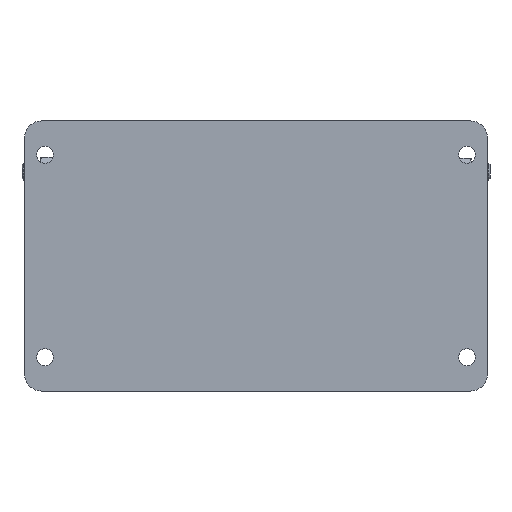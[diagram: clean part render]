
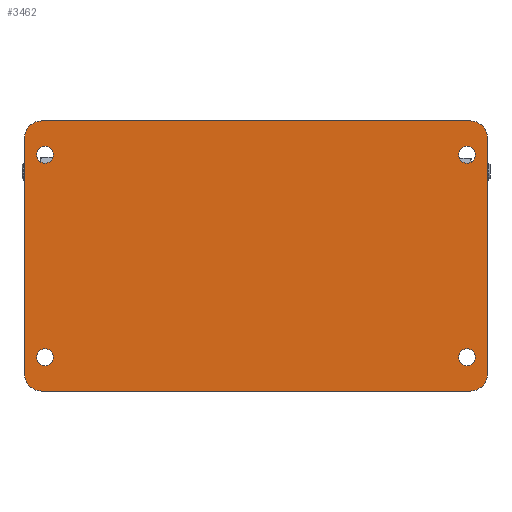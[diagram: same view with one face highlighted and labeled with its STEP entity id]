
A CAD part, front view. The second image highlights one B-rep face of the part: STEP entity #3462.
In plain terms, the highlighted planar face has unit normal (0, -1, 0).
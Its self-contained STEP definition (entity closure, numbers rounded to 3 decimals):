
#13 = CIRCLE ( 'NONE', #3231, 2.5 ) ;
#17 = DIRECTION ( 'NONE',  ( 0., -1., 0. ) ) ;
#18 = AXIS2_PLACEMENT_3D ( 'NONE', #3286, #7959, #5339 ) ;
#19 = VERTEX_POINT ( 'NONE', #4262 ) ;
#40 = AXIS2_PLACEMENT_3D ( 'NONE', #4133, #6205, #8195 ) ;
#176 = LINE ( 'NONE', #8035, #6435 ) ;
#331 = CIRCLE ( 'NONE', #6875, 2.5 ) ;
#358 = ORIENTED_EDGE ( 'NONE', *, *, #3437, .F. ) ;
#458 = CIRCLE ( 'NONE', #4315, 5. ) ;
#571 = CARTESIAN_POINT ( 'NONE',  ( 6., 0., -72.5 ) ) ;
#700 = DIRECTION ( 'NONE',  ( -1., 0., 0. ) ) ;
#797 = CARTESIAN_POINT ( 'NONE',  ( 131., 0., -70. ) ) ;
#925 = DIRECTION ( 'NONE',  ( 0., -1., 0. ) ) ;
#975 = DIRECTION ( 'NONE',  ( 0., 0., -1. ) ) ;
#1022 = CARTESIAN_POINT ( 'NONE',  ( 132., 0., -75. ) ) ;
#1027 = CARTESIAN_POINT ( 'NONE',  ( 6., 0., -70. ) ) ;
#1033 = CARTESIAN_POINT ( 'NONE',  ( 137., 0., 0. ) ) ;
#1134 = CARTESIAN_POINT ( 'NONE',  ( 131., 0., -70. ) ) ;
#1136 = ORIENTED_EDGE ( 'NONE', *, *, #6091, .T. ) ;
#1187 = VECTOR ( 'NONE', #1579, 1000. ) ;
#1268 = VERTEX_POINT ( 'NONE', #8431 ) ;
#1293 = CARTESIAN_POINT ( 'NONE',  ( 5., 0., 0. ) ) ;
#1394 = EDGE_CURVE ( 'NONE', #7535, #8065, #1648, .T. ) ;
#1428 = ORIENTED_EDGE ( 'NONE', *, *, #5624, .F. ) ;
#1460 = CARTESIAN_POINT ( 'NONE',  ( 5., 0., -80. ) ) ;
#1534 = EDGE_CURVE ( 'NONE', #19, #1268, #13, .T. ) ;
#1539 = ORIENTED_EDGE ( 'NONE', *, *, #2008, .F. ) ;
#1579 = DIRECTION ( 'NONE',  ( 1., 0., 0. ) ) ;
#1595 = DIRECTION ( 'NONE',  ( 0., -1., 0. ) ) ;
#1609 = ORIENTED_EDGE ( 'NONE', *, *, #3909, .T. ) ;
#1617 = FACE_BOUND ( 'NONE', #4436, .T. ) ;
#1648 = CIRCLE ( 'NONE', #18, 5. ) ;
#1681 = EDGE_CURVE ( 'NONE', #1835, #5032, #5739, .T. ) ;
#1686 = DIRECTION ( 'NONE',  ( 0., 0., -1. ) ) ;
#1715 = DIRECTION ( 'NONE',  ( 0., -1., 0. ) ) ;
#1817 = CARTESIAN_POINT ( 'NONE',  ( 132., 0., -80. ) ) ;
#1835 = VERTEX_POINT ( 'NONE', #4511 ) ;
#1874 = EDGE_CURVE ( 'NONE', #4021, #8090, #3103, .T. ) ;
#1926 = CIRCLE ( 'NONE', #40, 2.5 ) ;
#1954 = CARTESIAN_POINT ( 'NONE',  ( 6., 0., -10. ) ) ;
#2008 = EDGE_CURVE ( 'NONE', #1835, #2277, #6665, .T. ) ;
#2015 = ORIENTED_EDGE ( 'NONE', *, *, #7504, .F. ) ;
#2267 = CARTESIAN_POINT ( 'NONE',  ( 0., 0., 0. ) ) ;
#2277 = VERTEX_POINT ( 'NONE', #6431 ) ;
#2370 = DIRECTION ( 'NONE',  ( 0., 0., 1. ) ) ;
#2398 = VERTEX_POINT ( 'NONE', #7995 ) ;
#2411 = ORIENTED_EDGE ( 'NONE', *, *, #4466, .F. ) ;
#2422 = DIRECTION ( 'NONE',  ( 0., 0., 1. ) ) ;
#2432 = AXIS2_PLACEMENT_3D ( 'NONE', #797, #1595, #4361 ) ;
#2437 = CIRCLE ( 'NONE', #5455, 2.5 ) ;
#2646 = DIRECTION ( 'NONE',  ( 0., -1., 0. ) ) ;
#2663 = ORIENTED_EDGE ( 'NONE', *, *, #1874, .F. ) ;
#2804 = ORIENTED_EDGE ( 'NONE', *, *, #6576, .F. ) ;
#2823 = CARTESIAN_POINT ( 'NONE',  ( 6., 0., -67.5 ) ) ;
#2951 = ORIENTED_EDGE ( 'NONE', *, *, #4556, .F. ) ;
#3065 = VERTEX_POINT ( 'NONE', #1817 ) ;
#3075 = CIRCLE ( 'NONE', #3864, 2.5 ) ;
#3102 = DIRECTION ( 'NONE',  ( 0., 0., -1. ) ) ;
#3103 = CIRCLE ( 'NONE', #8036, 2.5 ) ;
#3231 = AXIS2_PLACEMENT_3D ( 'NONE', #4468, #5142, #7179 ) ;
#3286 = CARTESIAN_POINT ( 'NONE',  ( 132., 0., -5. ) ) ;
#3437 = EDGE_CURVE ( 'NONE', #3495, #6892, #3800, .T. ) ;
#3462 = ADVANCED_FACE ( 'NONE', ( #1617, #6023, #7990, #4215, #5811 ), #7066, .T. ) ;
#3495 = VERTEX_POINT ( 'NONE', #571 ) ;
#3635 = CARTESIAN_POINT ( 'NONE',  ( 137., 0., -5. ) ) ;
#3800 = CIRCLE ( 'NONE', #5093, 2.5 ) ;
#3864 = AXIS2_PLACEMENT_3D ( 'NONE', #1954, #6087, #6640 ) ;
#3898 = EDGE_LOOP ( 'NONE', ( #2015, #1136, #1539, #7650, #8043, #1609, #2804, #6063 ) ) ;
#3909 = EDGE_CURVE ( 'NONE', #3065, #6584, #6995, .T. ) ;
#4007 = EDGE_CURVE ( 'NONE', #2398, #7303, #331, .T. ) ;
#4021 = VERTEX_POINT ( 'NONE', #5873 ) ;
#4063 = CIRCLE ( 'NONE', #2432, 2.5 ) ;
#4133 = CARTESIAN_POINT ( 'NONE',  ( 6., 0., -70. ) ) ;
#4215 = FACE_BOUND ( 'NONE', #7383, .T. ) ;
#4262 = CARTESIAN_POINT ( 'NONE',  ( 6., 0., -12.5 ) ) ;
#4265 = EDGE_CURVE ( 'NONE', #3065, #5032, #176, .T. ) ;
#4293 = DIRECTION ( 'NONE',  ( 0., 0., 1. ) ) ;
#4306 = CARTESIAN_POINT ( 'NONE',  ( 131., 0., -12.5 ) ) ;
#4315 = AXIS2_PLACEMENT_3D ( 'NONE', #5296, #2646, #6009 ) ;
#4361 = DIRECTION ( 'NONE',  ( 0., 0., -1. ) ) ;
#4436 = EDGE_LOOP ( 'NONE', ( #1428, #2663 ) ) ;
#4466 = EDGE_CURVE ( 'NONE', #1268, #19, #3075, .T. ) ;
#4468 = CARTESIAN_POINT ( 'NONE',  ( 6., 0., -10. ) ) ;
#4481 = DIRECTION ( 'NONE',  ( 0., -1., 0. ) ) ;
#4511 = CARTESIAN_POINT ( 'NONE',  ( 0., 0., -75. ) ) ;
#4556 = EDGE_CURVE ( 'NONE', #6892, #3495, #1926, .T. ) ;
#4584 = CARTESIAN_POINT ( 'NONE',  ( 0., 0., -80. ) ) ;
#4750 = ORIENTED_EDGE ( 'NONE', *, *, #1534, .F. ) ;
#4785 = EDGE_LOOP ( 'NONE', ( #7903, #7806 ) ) ;
#4869 = VECTOR ( 'NONE', #2370, 1000. ) ;
#5032 = VERTEX_POINT ( 'NONE', #1460 ) ;
#5093 = AXIS2_PLACEMENT_3D ( 'NONE', #1027, #5162, #2422 ) ;
#5142 = DIRECTION ( 'NONE',  ( 0., -1., 0. ) ) ;
#5144 = LINE ( 'NONE', #1033, #7429 ) ;
#5162 = DIRECTION ( 'NONE',  ( 0., -1., 0. ) ) ;
#5296 = CARTESIAN_POINT ( 'NONE',  ( 5., 0., -5. ) ) ;
#5339 = DIRECTION ( 'NONE',  ( 0., 0., -1. ) ) ;
#5393 = DIRECTION ( 'NONE',  ( 0., 0., 1. ) ) ;
#5425 = CARTESIAN_POINT ( 'NONE',  ( 131., 0., -10. ) ) ;
#5455 = AXIS2_PLACEMENT_3D ( 'NONE', #5425, #17, #5393 ) ;
#5624 = EDGE_CURVE ( 'NONE', #8090, #4021, #2437, .T. ) ;
#5739 = CIRCLE ( 'NONE', #6100, 5. ) ;
#5787 = CARTESIAN_POINT ( 'NONE',  ( 5., 0., -75. ) ) ;
#5811 = FACE_OUTER_BOUND ( 'NONE', #3898, .T. ) ;
#5813 = EDGE_LOOP ( 'NONE', ( #358, #2951 ) ) ;
#5873 = CARTESIAN_POINT ( 'NONE',  ( 131., 0., -7.5 ) ) ;
#6009 = DIRECTION ( 'NONE',  ( 0., 0., -1. ) ) ;
#6023 = FACE_BOUND ( 'NONE', #4785, .T. ) ;
#6063 = ORIENTED_EDGE ( 'NONE', *, *, #1394, .T. ) ;
#6087 = DIRECTION ( 'NONE',  ( 0., -1., 0. ) ) ;
#6091 = EDGE_CURVE ( 'NONE', #8286, #2277, #458, .T. ) ;
#6100 = AXIS2_PLACEMENT_3D ( 'NONE', #5787, #1715, #1686 ) ;
#6158 = DIRECTION ( 'NONE',  ( 0., 0., -1. ) ) ;
#6205 = DIRECTION ( 'NONE',  ( 0., -1., 0. ) ) ;
#6367 = DIRECTION ( 'NONE',  ( 0., -1., 0. ) ) ;
#6431 = CARTESIAN_POINT ( 'NONE',  ( 0., 0., -5. ) ) ;
#6435 = VECTOR ( 'NONE', #700, 1000. ) ;
#6576 = EDGE_CURVE ( 'NONE', #7535, #6584, #5144, .T. ) ;
#6584 = VERTEX_POINT ( 'NONE', #7033 ) ;
#6640 = DIRECTION ( 'NONE',  ( 0., 0., -1. ) ) ;
#6665 = LINE ( 'NONE', #8403, #4869 ) ;
#6867 = CARTESIAN_POINT ( 'NONE',  ( 131., 0., -10. ) ) ;
#6875 = AXIS2_PLACEMENT_3D ( 'NONE', #1134, #7138, #7847 ) ;
#6892 = VERTEX_POINT ( 'NONE', #2823 ) ;
#6995 = CIRCLE ( 'NONE', #7597, 5. ) ;
#7033 = CARTESIAN_POINT ( 'NONE',  ( 137., 0., -75. ) ) ;
#7066 = PLANE ( 'NONE',  #8215 ) ;
#7138 = DIRECTION ( 'NONE',  ( 0., -1., 0. ) ) ;
#7179 = DIRECTION ( 'NONE',  ( 0., 0., -1. ) ) ;
#7303 = VERTEX_POINT ( 'NONE', #8361 ) ;
#7383 = EDGE_LOOP ( 'NONE', ( #4750, #2411 ) ) ;
#7429 = VECTOR ( 'NONE', #975, 1000. ) ;
#7504 = EDGE_CURVE ( 'NONE', #8286, #8065, #8275, .T. ) ;
#7535 = VERTEX_POINT ( 'NONE', #3635 ) ;
#7597 = AXIS2_PLACEMENT_3D ( 'NONE', #1022, #6367, #6158 ) ;
#7650 = ORIENTED_EDGE ( 'NONE', *, *, #1681, .T. ) ;
#7806 = ORIENTED_EDGE ( 'NONE', *, *, #7864, .F. ) ;
#7847 = DIRECTION ( 'NONE',  ( 0., 0., -1. ) ) ;
#7864 = EDGE_CURVE ( 'NONE', #7303, #2398, #4063, .T. ) ;
#7903 = ORIENTED_EDGE ( 'NONE', *, *, #4007, .F. ) ;
#7959 = DIRECTION ( 'NONE',  ( 0., -1., 0. ) ) ;
#7990 = FACE_BOUND ( 'NONE', #5813, .T. ) ;
#7995 = CARTESIAN_POINT ( 'NONE',  ( 131., 0., -72.5 ) ) ;
#8035 = CARTESIAN_POINT ( 'NONE',  ( 0., 0., -80. ) ) ;
#8036 = AXIS2_PLACEMENT_3D ( 'NONE', #6867, #925, #4293 ) ;
#8043 = ORIENTED_EDGE ( 'NONE', *, *, #4265, .F. ) ;
#8065 = VERTEX_POINT ( 'NONE', #8224 ) ;
#8090 = VERTEX_POINT ( 'NONE', #4306 ) ;
#8195 = DIRECTION ( 'NONE',  ( 0., 0., 1. ) ) ;
#8215 = AXIS2_PLACEMENT_3D ( 'NONE', #4584, #4481, #3102 ) ;
#8224 = CARTESIAN_POINT ( 'NONE',  ( 132., 0., 0. ) ) ;
#8275 = LINE ( 'NONE', #2267, #1187 ) ;
#8286 = VERTEX_POINT ( 'NONE', #1293 ) ;
#8361 = CARTESIAN_POINT ( 'NONE',  ( 131., 0., -67.5 ) ) ;
#8403 = CARTESIAN_POINT ( 'NONE',  ( 0., 0., 0. ) ) ;
#8431 = CARTESIAN_POINT ( 'NONE',  ( 6., 0., -7.5 ) ) ;
